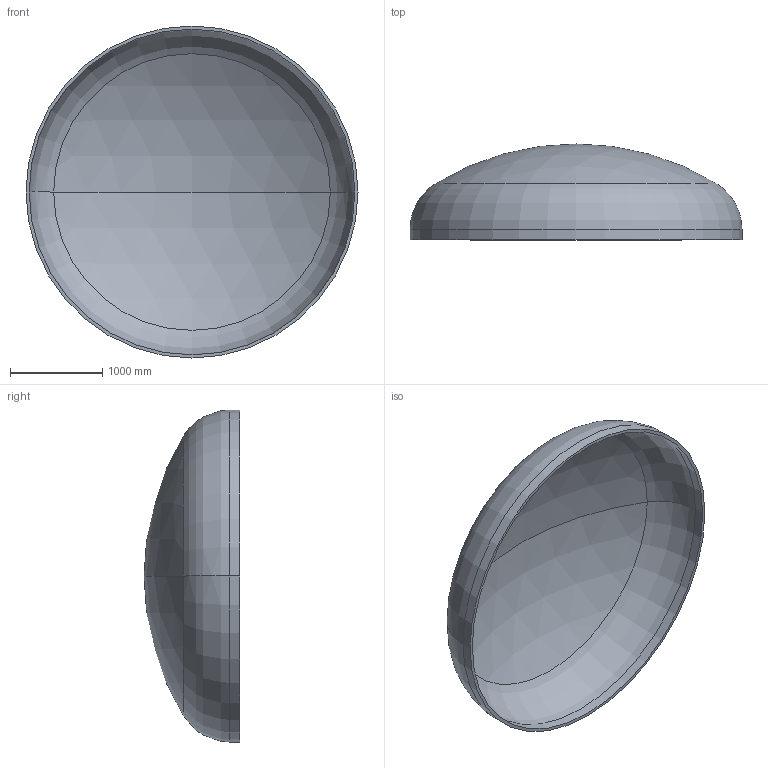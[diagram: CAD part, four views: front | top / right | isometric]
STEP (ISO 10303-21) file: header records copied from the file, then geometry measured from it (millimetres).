
FILE_DESCRIPTION (( 'STEP AP203' ), '1' );
FILE_NAME ('DIN 28013 Korbbogenform_-_Boden DIN 28013 - 3600 x 110 - I - s=34.step', '2016-07-01T20:20:36', ( '' ), ( '' ), 'SwSTEP 2.0', 'SolidWorks 2013', '' );
FILE_SCHEMA (( 'CONFIG_CONTROL_DESIGN' ));
Length unit declared in the file: millimetre
Products named in the file (1): DIN 28013 Korbbogenform_-_Boden DIN 28013 - 3600 x 110 - I - s=34
Bounding box: 3600 x 1039.28 x 3600 mm (x, y, z)
Volume: 515363262.7 mm3; surface area: 30698795.2 mm2
Topology: 1 solids, 1 shells, 13 faces, 24 edges, 14 vertices
Faces by surface type: torus 4, cylinder 4, sphere 4, plane 1
Entity records: 407 total; most frequent: DIRECTION 72, CARTESIAN_POINT 52, ORIENTED_EDGE 48, AXIS2_PLACEMENT_3D 34, EDGE_CURVE 24, CIRCLE 20, VERTEX_POINT 14, EDGE_LOOP 14
